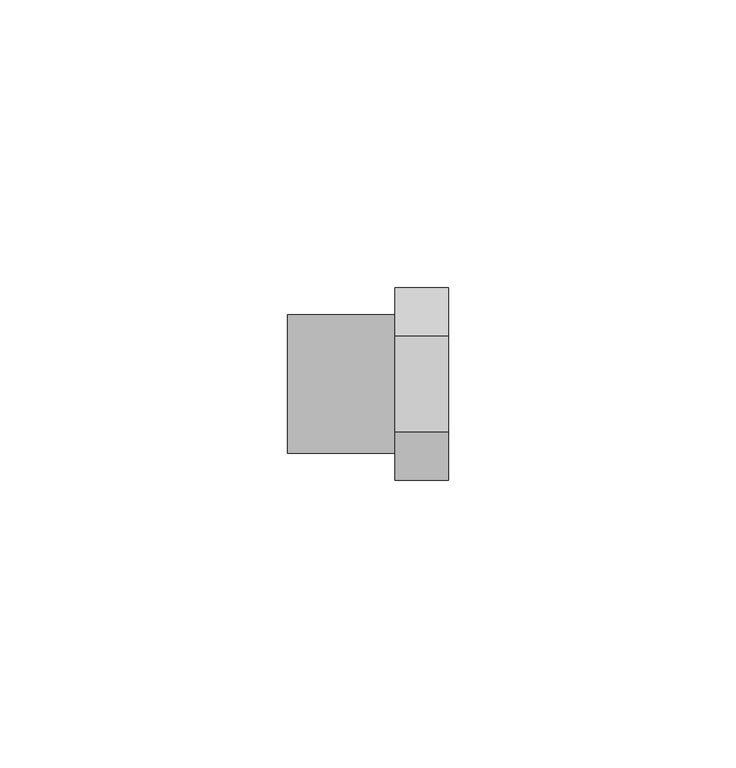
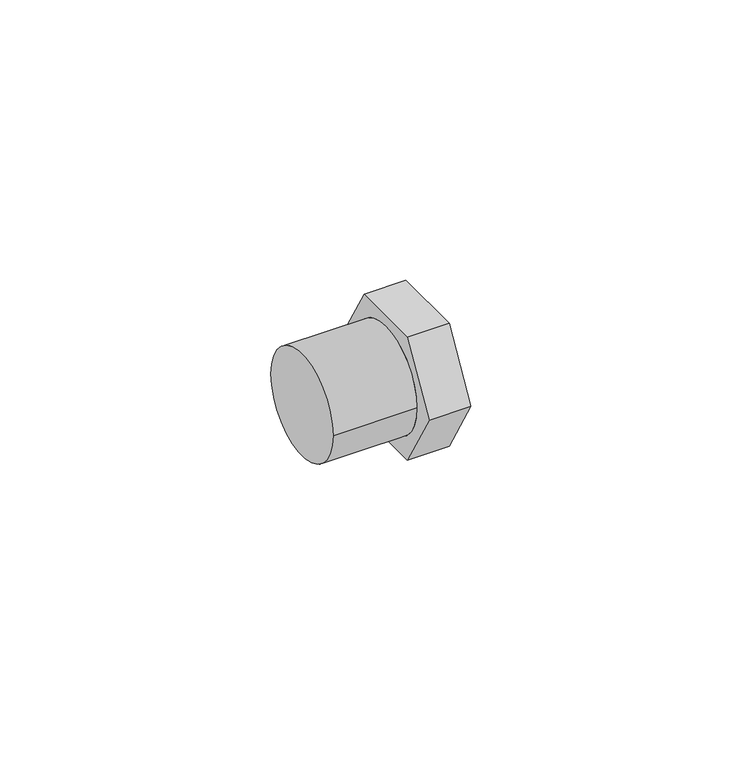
"""IFC4 building model written with IfcOpenShell, lengths in millimetres: pipe fitting geometry, 01011080 : Redução curta M/F."""

from ifc_helpers import new_model, si_unit, point, frame, origin, origin_2d, place, context, project, spatial, circle_curve, trimmed, segment, composite_curve, outline, extrude, source, transform, mapped, element, save
from ifc_brep_helpers import plane_surface, cylinder_surface, advanced_brep


def pipe_fitting_676224ad(model_context):
    return source(origin(), model_context, "Body", "SolidModel", [
        extrude(outline(composite_curve([segment(trimmed(circle_curve(origin_2d(), 12.025), [point((-12.025, 0.0))], [point((12.025, 0.0))], False, "CARTESIAN"), True, "CONTINUOUS"), segment(trimmed(circle_curve(origin_2d(), 12.025), [point((12.025, 0.0))], [point((-12.025, 0.0))], False, "CARTESIAN"), True, "CONTINUOUS")], self_intersect=False)), frame((0.0, 0.0, 0.0), z_axis=(1.0, 0.0, 0.0), x_axis=(0.0, 1.0, 0.0)), (0.0, 0.0, 1.0), 18.6666667),
        advanced_brep(
        [(28.0, -8.3715789, 14.5), (28.0, -16.7431578, 0.0), (28.0, -8.3715789, -14.5), (28.0, 8.3715789, -14.5), (28.0, 16.7431578, 0.0), (28.0, 8.3715789, 14.5), (18.6666667, -8.3715789, 14.5), (18.6666667, 8.3715789, 14.5), (18.6666667, 16.7431578, 0.0), (18.6666667, 8.3715789, -14.5), (18.6666667, -8.3715789, -14.5), (18.6666667, -16.7431578, 0.0), (18.6666667, 12.025, 0.0), (18.6666667, -12.025, 0.0), (0.0, 12.025, 0.0), (0.0, -12.025, 0.0)],
        [
            (0, 1),
            (1, 2),
            (2, 3),
            (3, 4),
            (4, 5),
            (5, 0),
            (6, 7),
            (7, 8),
            (8, 9),
            (9, 10),
            (10, 11),
            (11, 6),
            (12, 13, circle_curve(frame((18.6666667, 0.0, 0.0), z_axis=(1.0, 0.0, 0.0), x_axis=(0.0, 1.0, 0.0)), 12.025)),
            (13, 12, circle_curve(frame((18.6666667, 0.0, 0.0), z_axis=(1.0, 0.0, 0.0), x_axis=(0.0, 1.0, 0.0)), 12.025)),
            (0, 6),
            (11, 1),
            (10, 2),
            (9, 3),
            (8, 4),
            (7, 5),
            (14, 15, circle_curve(frame((0.0, 0.0, 0.0), z_axis=(1.0, 0.0, 0.0), x_axis=(0.0, 1.0, 0.0)), 12.025)),
            (15, 13),
            (12, 14),
            (15, 14, circle_curve(frame((0.0, 0.0, 0.0), z_axis=(1.0, 0.0, 0.0), x_axis=(0.0, 1.0, 0.0)), 12.025)),
        ],
        [
            plane_surface(frame((28.0, -8.3715789, 14.5), z_axis=(1.0000000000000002, 0.0, 0.0), x_axis=(0.0, -0.5000000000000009, -0.8660254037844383))),
            plane_surface(frame((18.6666667, -8.3715789, 14.5), z_axis=(-1.0000000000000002, 0.0, 0.0), x_axis=(0.0, 0.5000000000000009, 0.8660254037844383))),
            plane_surface(frame((28.0, -8.3715789, 14.5), z_axis=(0.0, -0.8660254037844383, 0.5000000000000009), x_axis=(-1.0, 0.0, 0.0))),
            plane_surface(frame((28.0, -16.7431578, 0.0), z_axis=(0.0, -0.866025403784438, -0.5000000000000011), x_axis=(-1.0, 0.0, 0.0))),
            plane_surface(frame((28.0, -8.3715789, -14.5), z_axis=(0.0, 0.0, -1.0), x_axis=(-1.0, 0.0, 0.0))),
            plane_surface(frame((28.0, 8.3715789, -14.5), z_axis=(0.0, 0.8660254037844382, -0.5000000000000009), x_axis=(-1.0, 0.0, 0.0))),
            plane_surface(frame((28.0, 16.7431578, 0.0), z_axis=(0.0, 0.866025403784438, 0.500000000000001), x_axis=(-1.0, 0.0, 0.0))),
            plane_surface(frame((28.0, 8.3715789, 14.5), z_axis=(0.0, 0.0, 1.0), x_axis=(-1.0, 0.0, 0.0))),
            cylinder_surface(frame((0.0, 0.0, 0.0), z_axis=(-1.0, 0.0, 0.0), x_axis=(0.0, 1.0, 0.0)), 12.025),
            plane_surface(frame((0.0, 0.0, 0.0), z_axis=(-1.0, 0.0, 0.0), x_axis=(0.0, 0.0, 1.0))),
        ],
        [
            (0, [[1, 2, 3, 4, 5, 6]]),
            (1, [[7, 8, 9, 10, 11, 12], [13, 14]]),
            (2, [[-1, 15, -12, 16]]),
            (3, [[-2, -16, -11, 17]]),
            (4, [[-3, -17, -10, 18]]),
            (5, [[-4, -18, -9, 19]]),
            (6, [[-5, -19, -8, 20]]),
            (7, [[-6, -20, -7, -15]]),
            (8, [[21, 22, -13, 23]]),
            (8, [[24, -23, -14, -22]]),
            (9, [[-21, -24]]),
        ],
    ),
    ])


if __name__ == "__main__":
    model = new_model("IFC4")
    model_context = context("Model", 3, world=origin())
    ifc_project = project(units=[si_unit("LENGTHUNIT", "METRE", prefix="MILLI")], contexts=[model_context])
    site = spatial("IfcSite", under=ifc_project)
    building = spatial("IfcBuilding", under=site)
    placement = place(None, origin())
    pipe_fitting_shape = pipe_fitting_676224ad(model_context)
    element("IfcPipeFitting", 1, ObjectType="01011080 : Redução curta M/F", at=placement, inside=building, context=model_context, shape_type="MappedRepresentation", body=[
        mapped(pipe_fitting_shape, transform((0.0, 0.0, 0.0), x_axis=(1.0, 0.0, 0.0), y_axis=(0.0, 1.0, 0.0), z_axis=(0.0, 0.0, 1.0))),
    ])
    save(model, "model.ifc")
